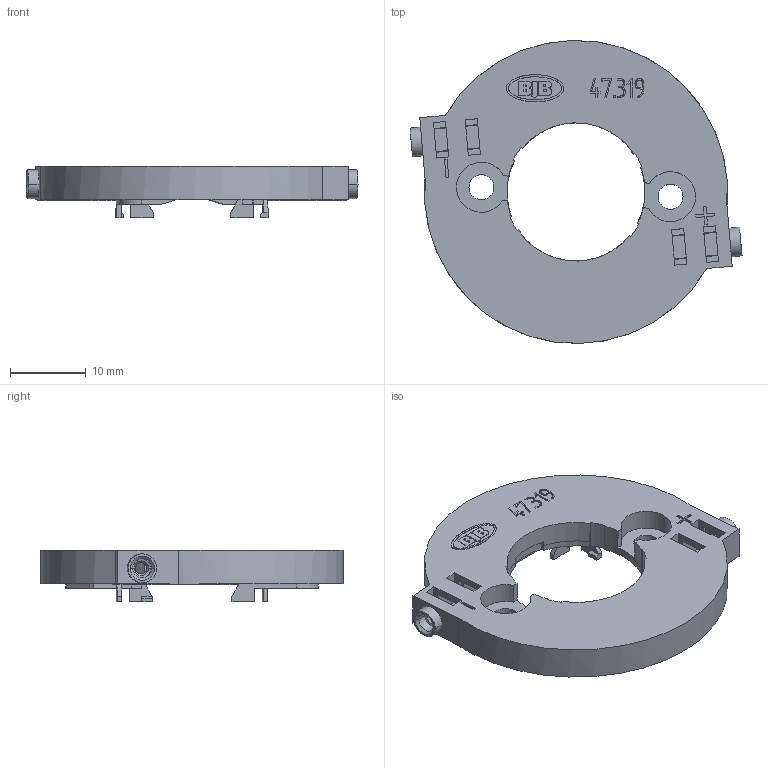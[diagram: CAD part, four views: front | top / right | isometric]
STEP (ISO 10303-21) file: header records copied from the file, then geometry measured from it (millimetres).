
FILE_DESCRIPTION(('CAx-IF Rec.Pracs.---Model Styling and Organization---1.2---2011-12-15','CAx-IF Rec.Pracs.---Geometric and Assembly Validation Properties---4.1---2014-06-16','CAx-IF Rec.Pracs.---PMI Polyline Presentation---2.0---2013-05-24'),'2;1');
FILE_NAME('01TYA7AY02.stp','2018-06-11T11:39:01+02:00',(''),(''),'STEP Interface 4.1 Sp1 by CT CoreTechnologie','3D_Evolution4.1 Sp1 by CT CoreTechnologie','');
FILE_SCHEMA(('AUTOMOTIVE_DESIGN { 1 0 10303 214 1 1 1 1 }'));
Length unit declared in the file: millimetre
Products named in the file (3): 01TYA7AY02; 01T-A75-02; 01T-A51-02
Assembly tree (3 placements, depth 2):
  01TYA7AY02
    01T-A75-02
    01T-A51-02  x2
Bounding box: 43.82 x 39.99 x 6.85 mm (x, y, z)
Volume: 2561.5 mm3; surface area: 4978.1 mm2
Topology: 3 solids, 3 shells, 636 faces, 1796 edges, 1190 vertices
Faces by surface type: plane 504, cylinder 88, bspline 44
Entity records: 46410 total; most frequent: CARTESIAN_POINT 5941, PROPERTY_DEFINITION 3516, ORIENTED_EDGE 3302, DIRECTION 2945, REPRESENTATION 1760, GENERAL_PROPERTY 1760, PROPERTY_DEFINITION_REPRESENTATION 1760, GENERAL_PROPERTY_ASSOCIATION 1760
